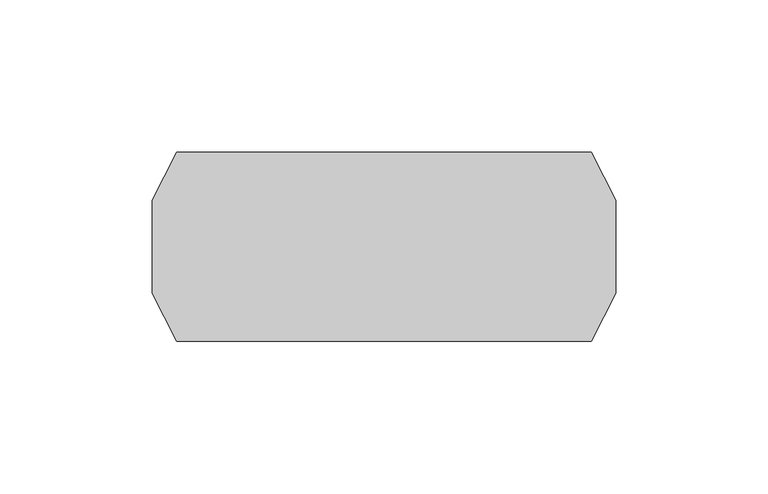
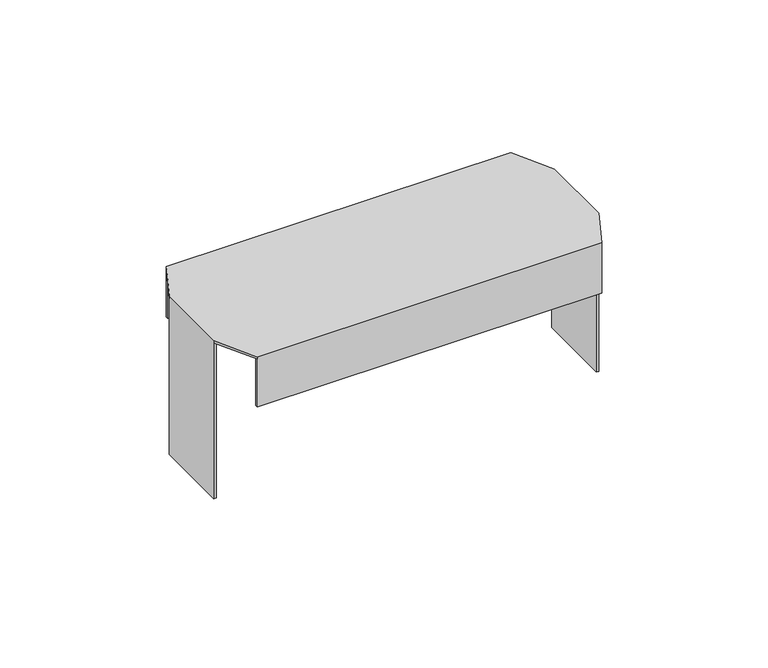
"""IFC4 building model written with IfcOpenShell, lengths in millimetres: proxy geometry, Cable_Tray_FinalCover_TFBPE_Basorplast : Basorplast TFBPE 60X150."""

from ifc_helpers import new_model, si_unit, origin, place, context, project, spatial, faceted_brep, source, transform, mapped, element, save


def generic_models_60ac8231(model_context):
    return source(origin(), model_context, "Body", "Brep", [
        faceted_brep([(-76.0, -15.299116, 1.0), (-68.0, -31.0, 1.0), (68.0, -31.0, 1.0), (76.0, -15.3, 1.0), (76.0, 15.3, 1.0), (68.0, 31.0, 1.0), (-68.0, 31.0, 1.0), (-76.0, 15.3000012, 1.0), (-76.0, 15.3000012, 0.0), (-68.0, 31.0, 0.0), (-68.0, 30.0, 0.0), (68.0, 30.0, 0.0), (68.0, 31.0, 0.0), (76.0, 15.3, 0.0), (75.0, 15.3, 0.0), (75.0, -15.3, 0.0), (76.0, -15.3, 0.0), (68.0, -31.0, 0.0), (68.0, -30.0, 0.0), (-68.0, -30.0, 0.0), (-68.0, -31.0, 0.0), (-76.0, -15.299116, 0.0), (-75.0, -15.299116, 0.0), (-75.0, 15.3, 0.0), (-75.0, 15.3, -65.0), (-75.0, -15.299116, -65.0), (-76.0, -15.299116, -65.0), (-76.0, 15.3, -65.0), (75.0, 15.3, -65.0), (76.0, 15.3, -65.0), (76.0, -15.3, -65.0), (75.0, -15.3, -65.0), (68.0, 30.0, -20.0), (-68.0, 30.0, -20.0), (-68.0, 31.0, -20.0), (68.0, 31.0, -20.0), (-68.0, -30.0, -20.0), (68.0, -30.0, -20.0), (68.0, -31.0, -20.0), (-68.0, -31.0, -20.0)], [[[0, 1, 2, 3, 4, 5, 6, 7]], [[8, 9, 10, 11, 12, 13, 14, 15, 16, 17, 18, 19, 20, 21, 22, 23]], [[24, 25, 26, 27]], [[28, 29, 30, 31]], [[25, 24, 23, 22]], [[28, 31, 15, 14]], [[32, 33, 34, 35]], [[36, 37, 38, 39]], [[33, 32, 11, 10]], [[37, 36, 19, 18]], [[0, 7, 8, 27, 26, 21]], [[1, 0, 21, 20]], [[2, 1, 20, 39, 38, 17]], [[4, 3, 16, 30, 29, 13]], [[6, 5, 12, 35, 34, 9]], [[24, 27, 8, 23]], [[26, 25, 22, 21]], [[31, 30, 16, 15]], [[29, 28, 14, 13]], [[32, 35, 12, 11]], [[34, 33, 10, 9]], [[36, 39, 20, 19]], [[38, 37, 18, 17]], [[7, 6, 9, 8]], [[3, 2, 17, 16]], [[5, 4, 13, 12]]]),
    ])


if __name__ == "__main__":
    model = new_model("IFC4")
    model_context = context("Model", 3, world=origin())
    ifc_project = project(units=[si_unit("LENGTHUNIT", "METRE", prefix="MILLI")], contexts=[model_context])
    site = spatial("IfcSite", under=ifc_project)
    building = spatial("IfcBuilding", under=site)
    placement = place(None, origin())
    generic_models_shape = generic_models_60ac8231(model_context)
    element("IfcBuildingElementProxy", 1, Name="Cable_Tray_FinalCover_TFBPE_Basorplast : Basorplast TFBPE 60X150", ObjectType="Cable_Tray_FinalCover_TFBPE_Basorplast : Basorplast TFBPE 60X150", at=placement, inside=building, context=model_context, shape_type="MappedRepresentation", body=[
        mapped(generic_models_shape, transform((0.0, 0.0, 0.0), x_axis=(1.0, 0.0, 0.0), y_axis=(0.0, 1.0, 0.0), z_axis=(0.0, 0.0, 1.0))),
    ])
    save(model, "model.ifc")
